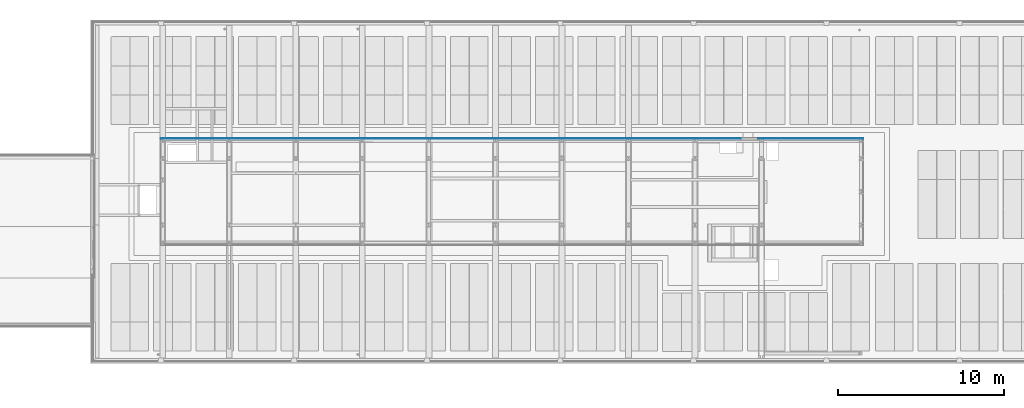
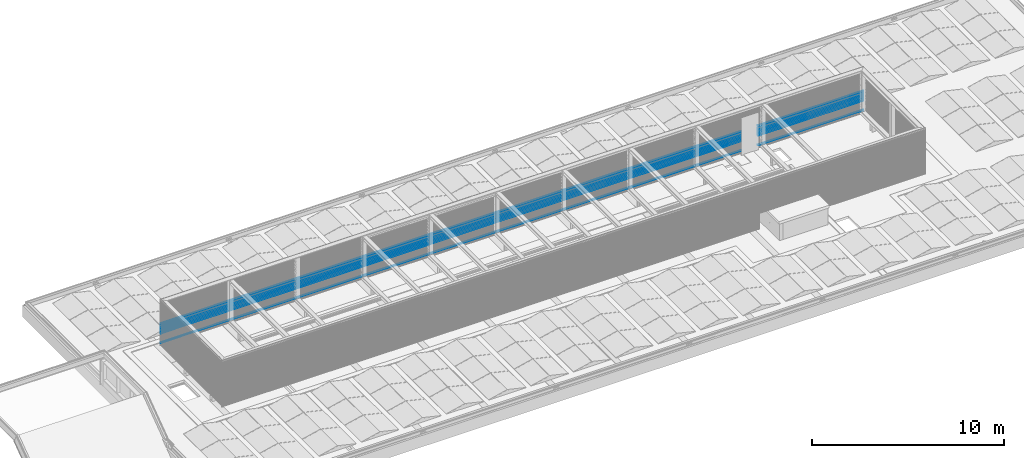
# One storey, part 46 of 63: 9 building element parts, 1 opening, 1 element without a shape of its own.
"""IFC2X3 building model written with IfcOpenShell, lengths in millimetres."""

import ifcopenshell
import ifcopenshell.guid

model = None  # the IFC model being written
_history = None  # IfcOwnerHistory: only IFC2X3 demands one
_inside = {}  # id of a spatial element -> (the spatial element, [elements in it])
_under = {}  # id of a project, library or spatial element -> (it, [spatial elements below it])
_declared = {}  # id of a project -> (the project, [libraries it declares])
_typed = {}  # id of a type object -> (the type object, [elements of that type])
_made_of = {}  # id of a material, layer set ... -> (it, [elements and type objects made of it])


def new_model(schema):
    """Start an empty IFC model of exactly this schema.

    Asked for "IFC4X3", IfcOpenShell would pick the latest addendum, in which some entities
    have other attributes; the version numbers below select the first issue.
    IFC2X3 requires an IfcOwnerHistory on every rooted entity: one is made here for all.
    """
    global model, _history
    if schema == "IFC4X3":
        model = ifcopenshell.file(schema_version=(4, 3, 0, 0))
    else:
        model = ifcopenshell.file(schema=schema)
    _inside.clear()
    _under.clear()
    _declared.clear()
    _typed.clear()
    _made_of.clear()
    _history = None
    if model.schema == "IFC2X3":
        org = make("IfcOrganization", Name="unknown")
        user = make(
            "IfcPersonAndOrganization",
            ThePerson=make("IfcPerson", FamilyName="unknown"),
            TheOrganization=org,
        )
        app = make(
            "IfcApplication",
            ApplicationDeveloper=org,
            Version="unknown",
            ApplicationFullName="unknown",
            ApplicationIdentifier="unknown",
        )
        _history = make(
            "IfcOwnerHistory",
            OwningUser=user,
            OwningApplication=app,
            ChangeAction="ADDED",
            CreationDate=0,
        )
    return model


def make(cls, **values):
    """One entity of the class cls with the attributes given. An attribute that is None is left unset."""
    return model.create_entity(
        cls, **{name: value for name, value in values.items() if value is not None}
    )


def entity(cls, *values):
    """Any entity or typed value of the class cls, its attributes in the order of the schema. None: left unset."""
    e = model.create_entity(cls)
    for i, value in enumerate(values):
        if value is not None:
            e[i] = value
    return e


def rooted(cls, **values):
    """An entity with a GlobalId (a new one), such as an element, a storey or a relation."""
    return make(cls, GlobalId=ifcopenshell.guid.new(), OwnerHistory=_history, **values)


def si_unit(unit_type, name, prefix=None):
    """IfcSIUnit, for example si_unit("LENGTHUNIT", "METRE", prefix="MILLI")."""
    return make("IfcSIUnit", UnitType=unit_type, Prefix=prefix, Name=name)


def converted_unit(unit_type, name, factor, base, dimensions=None, offset=None):
    """IfcConversionBasedUnit, such as the inch: factor (a typed value) times the base unit."""
    return make(
        "IfcConversionBasedUnit"
        if offset is None
        else "IfcConversionBasedUnitWithOffset",
        ConversionOffset=offset,
        Dimensions=None
        if dimensions is None
        else entity("IfcDimensionalExponents", *dimensions),
        UnitType=unit_type,
        Name=name,
        ConversionFactor=make(
            "IfcMeasureWithUnit", ValueComponent=factor, UnitComponent=base
        ),
    )


def derived_unit(unit_type, elements):
    """IfcDerivedUnit: a product of units, each with its exponent."""
    return make(
        "IfcDerivedUnit",
        Elements=[
            make("IfcDerivedUnitElement", Unit=unit, Exponent=power)
            for unit, power in elements
        ],
        UnitType=unit_type,
    )


def money_unit(currency):
    """IfcMonetaryUnit."""
    return make("IfcMonetaryUnit", Currency=currency)


def assignment(units):
    """IfcUnitAssignment: the units of a project."""
    return None if units is None else make("IfcUnitAssignment", Units=units)


def point(xyz):
    """IfcCartesianPoint."""
    return None if xyz is None else make("IfcCartesianPoint", Coordinates=xyz)


def direction(xyz):
    """IfcDirection."""
    return None if xyz is None else make("IfcDirection", DirectionRatios=xyz)


def frame(location, z_axis=None, x_axis=None):
    """IfcAxis2Placement3D, a coordinate frame: its origin and axes. An axis left out is left unset."""
    return make(
        "IfcAxis2Placement3D",
        Location=point(location),
        Axis=direction(z_axis),
        RefDirection=direction(x_axis),
    )


def origin_with_axes():
    """The frame at (0, 0, 0) with the z axis (0, 0, 1) and the x axis (1, 0, 0) written out."""
    return frame((0.0, 0.0, 0.0), z_axis=(0.0, 0.0, 1.0), x_axis=(1.0, 0.0, 0.0))


def place(relative_to, where):
    """IfcLocalPlacement: puts the frame where relative to a parent placement (None: the world)."""
    return make(
        "IfcLocalPlacement", PlacementRelTo=relative_to, RelativePlacement=where
    )


def context(
    kind, dimensions, precision=None, world=None, true_north=None, identifier=None
):
    """IfcGeometricRepresentationContext, for example the 3D "Model" context."""
    return make(
        "IfcGeometricRepresentationContext",
        ContextIdentifier=identifier,
        ContextType=kind,
        CoordinateSpaceDimension=dimensions,
        Precision=precision,
        WorldCoordinateSystem=world,
        TrueNorth=true_north,
    )


def subcontext(parent, identifier, kind, view, scale=None):
    """IfcGeometricRepresentationSubContext, for example "Body" below "Model"."""
    return make(
        "IfcGeometricRepresentationSubContext",
        ContextIdentifier=identifier,
        ContextType=kind,
        ParentContext=parent,
        TargetScale=scale,
        TargetView=view,
    )


def project(units=None, contexts=None):
    """IfcProject with its units and contexts."""
    return rooted(
        "IfcProject",
        Name="project",
        RepresentationContexts=contexts,
        UnitsInContext=assignment(units),
    )


def spatial(cls, under=None, at=None, **own):
    """A site, building, storey or space (cls), placed at a placement, below another one or the project."""
    s = rooted(cls, ObjectPlacement=at, **own)
    if under is not None:
        _under.setdefault(under.id(), (under, []))[1].append(s)
    return s


def faces_of(points, faces, orient=None, outer=None):
    """IfcFace entities. A face is a list of loops; a loop is a list of indices into points, from 0.

    orient and outer hold one flag for each loop. By default every Orientation is true, the
    first loop of a face is its IfcFaceOuterBound and the others are IfcFaceBound.
    """
    made = []
    for i, loops in enumerate(faces):
        bounds = []
        for j, loop in enumerate(loops):
            is_outer = j == 0 if outer is None else outer[i][j]
            bounds.append(
                make(
                    "IfcFaceOuterBound" if is_outer else "IfcFaceBound",
                    Bound=make("IfcPolyLoop", Polygon=[points[k] for k in loop]),
                    Orientation=True if orient is None else orient[i][j],
                )
            )
        made.append(make("IfcFace", Bounds=bounds))
    return made


def faceted_brep(points, faces, orient=None, outer=None, voids=None):
    """IfcFacetedBrep: a solid bounded by flat faces; with voids (closed shells), ...WithVoids."""
    shared = [point(p) for p in points]
    hull = make("IfcClosedShell", CfsFaces=faces_of(shared, faces, orient, outer))
    if voids is None:
        return make("IfcFacetedBrep", Outer=hull)
    return make(
        "IfcFacetedBrepWithVoids",
        Outer=hull,
        Voids=[
            make(cls, CfsFaces=faces_of(shared, fs, o, b)) for cls, fs, o, b in voids
        ],
    )


def shape(context_of_items, identifier, shape_type, items):
    """IfcShapeRepresentation: the items that make up one representation, for example the "Body"."""
    return make(
        "IfcShapeRepresentation",
        ContextOfItems=context_of_items,
        RepresentationIdentifier=identifier,
        RepresentationType=shape_type,
        Items=items,
    )


def material(Name=None, Category=None):
    """IfcMaterial."""
    return make("IfcMaterial", Name=Name, Category=Category)


def made_of(thing, what):
    """Note that an element or type object is made of a material, layer set ...; save() writes the relation."""
    if what is not None:
        _made_of.setdefault(what.id(), (what, []))[1].append(thing)
    return thing


def type_object(cls, material=None, **own):
    """A type object (cls), such as IfcWallType, which elements share."""
    return made_of(rooted(cls, **own), material)


def element(
    cls,
    number,
    at=None,
    inside=None,
    cuts=None,
    type_object=None,
    material=None,
    context=None,
    identifier="Body",
    shape_type=None,
    held_by="IfcProductDefinitionShape",
    body=None,
    shapes=None,
    **own,
):
    """One element of the class cls, such as IfcWall. Its Tag is "e" and its number.

    at: its placement. inside: the storey or other place that contains it. cuts: it is an
    opening in that element (IfcRelVoidsElement). A single representation is given by context,
    identifier, shape_type and body (its items); several are given by shapes. held_by: the class
    of the entity that holds the representations. save() writes the other relations.
    """
    e = rooted(cls, Tag="e%d" % number, ObjectPlacement=at, **own)
    if body is not None:
        shapes = [shape(context, identifier, shape_type, body)]
    if shapes is not None:
        e.Representation = make(held_by, Representations=shapes)
    if inside is not None:
        _inside.setdefault(inside.id(), (inside, []))[1].append(e)
    if cuts is not None:
        rooted(
            "IfcRelVoidsElement", RelatingBuildingElement=cuts, RelatedOpeningElement=e
        )
    if type_object is not None:
        _typed.setdefault(type_object.id(), (type_object, []))[1].append(e)
    return made_of(e, material)


def aggregate(whole, parts):
    """IfcRelAggregates: a whole, such as a stair, and the parts it consists of."""
    return rooted("IfcRelAggregates", RelatingObject=whole, RelatedObjects=parts)


def save(model, path):
    """Write the relations noted so far, then the file.

    IfcRelAggregates (storeys below a building ...), IfcRelContainedInSpatialStructure (elements
    in a storey), IfcRelDefinesByType, IfcRelAssociatesMaterial and IfcRelDeclares: one each for
    every whole, place, type object, material and project.
    """
    for whole, parts in _under.values():
        aggregate(whole, parts)
    for where, things in _inside.values():
        rooted(
            "IfcRelContainedInSpatialStructure",
            RelatedElements=things,
            RelatingStructure=where,
        )
    for kind, things in _typed.values():
        rooted("IfcRelDefinesByType", RelatedObjects=things, RelatingType=kind)
    for what, things in _made_of.values():
        rooted("IfcRelAssociatesMaterial", RelatedObjects=things, RelatingMaterial=what)
    for by, libraries in _declared.values():
        rooted("IfcRelDeclares", RelatingContext=by, RelatedDefinitions=libraries)
    model.write(path)


model = new_model("IFC2X3")

# Units and contexts
model_context = context("Model", 3, precision=0.01, world=origin_with_axes(), true_north=direction((0.0, 1.0)))
body_context = subcontext(model_context, "Body", "Model", "MODEL_VIEW")
ifc_project = project(units=[si_unit("LENGTHUNIT", "METRE", prefix="MILLI"), si_unit("AREAUNIT", "SQUARE_METRE"), si_unit("VOLUMEUNIT", "CUBIC_METRE"), converted_unit("PLANEANGLEUNIT", "DEGREE", entity("IfcPlaneAngleMeasure", 0.0174532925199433), si_unit("PLANEANGLEUNIT", "RADIAN"), dimensions=[0, 0, 0, 0, 0, 0, 0]), money_unit("EUR"), converted_unit("TIMEUNIT", "Year", entity("IfcTimeMeasure", 31557600.0), si_unit("TIMEUNIT", "SECOND"), dimensions=[0, 0, 1, 0, 0, 0, 0]), si_unit("MASSUNIT", "GRAM", prefix="KILO"), si_unit("THERMODYNAMICTEMPERATUREUNIT", "DEGREE_CELSIUS"), si_unit("LUMINOUSINTENSITYUNIT", "LUMEN"), si_unit("ENERGYUNIT", "JOULE", prefix="MEGA"), derived_unit("THERMALCONDUCTANCEUNIT", [(si_unit("POWERUNIT", "WATT"), 1), (si_unit("LENGTHUNIT", "METRE"), -1), (si_unit("THERMODYNAMICTEMPERATUREUNIT", "KELVIN"), -1)]), derived_unit("SPECIFICHEATCAPACITYUNIT", [(si_unit("ENERGYUNIT", "JOULE"), 1), (si_unit("MASSUNIT", "GRAM", prefix="KILO"), -1), (si_unit("THERMODYNAMICTEMPERATUREUNIT", "KELVIN"), -1)]), derived_unit("MASSDENSITYUNIT", [(si_unit("MASSUNIT", "GRAM", prefix="KILO"), 1), (si_unit("VOLUMEUNIT", "CUBIC_METRE"), -1)])], contexts=[model_context])

# Site, building, storey
site_placement = place(None, origin_with_axes())
site = spatial("IfcSite", under=ifc_project, at=site_placement, Name="<site naam>", CompositionType="ELEMENT")
building_placement = place(site_placement, origin_with_axes())
building = spatial("IfcBuilding", under=site, at=building_placement, Name="<Naam gebouw>", CompositionType="ELEMENT")
storey_placement = place(building_placement, frame((0.0, 0.0, 12770.0), z_axis=(0.0, 0.0, 1.0), x_axis=(1.0, 0.0, 0.0)))
storey = spatial("IfcBuildingStorey", under=building, at=storey_placement, Name="04 4e verdieping", CompositionType="ELEMENT", Elevation=12770.0)

# Wall, opening, building element parts
wall_type = type_object("IfcWallType", Name="Gevelbeplating golf 18 x 2900", PredefinedType="NOTDEFINED")
wall_placement = place(storey_placement, frame((58128.00007858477, 13218.00009009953, 299.9552842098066), z_axis=(0.0, 0.0, 1.0), x_axis=(-1.0, 0.0, 0.0)))
wall = element("IfcWall", 1, at=wall_placement, inside=storey, type_object=wall_type, Name="47_Binnenwand_Gevelbeplating")
opening_placement = place(wall_placement, frame((6856.073474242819, 0.0, -120.0392154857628), z_axis=(0.0, 0.0, 1.0), x_axis=(1.0, 0.0, 0.0)))
element("IfcOpeningElement", 2, at=opening_placement, cuts=wall, Name="47_BU-F-02_305", context=body_context, shape_type="Brep", body=[
    faceted_brep([(517.000000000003, 19.00000000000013, 2367.000000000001), (517.000000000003, 19.00000000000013, 0.0), (-517.000000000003, 19.00000000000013, 0.0), (-517.000000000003, 19.00000000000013, 2367.000000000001), (517.000000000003, -1.000078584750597, 2367.000000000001), (517.000000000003, -1.000078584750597, 0.0), (-517.000000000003, -1.000078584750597, 0.0), (-517.000000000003, -1.000078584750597, 2367.000000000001)], [[[0, 1, 2, 3]], [[4, 5, 1, 0]], [[5, 6, 2, 1]], [[6, 7, 3, 2]], [[7, 4, 0, 3]], [[6, 5, 4, 7]]]),
])
ifc_material = material(Name="gevelafwerking type 3 - Aluminium RAL1036")
building_element_part_1_placement = place(wall_placement, origin_with_axes())
building_element_part_1 = element("IfcBuildingElementPart", 3, at=building_element_part_1_placement, material=ifc_material, Name="gevelafwerking type 3 - Aluminium RAL1036", context=body_context, shape_type="Brep", body=[
    faceted_brep([(18238.00007858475, 15.62923906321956, 846.6844886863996), (18238.00007858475, 10.1433027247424, 853.9624792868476), (18018.00007858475, 10.1433027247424, 853.9624792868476), (18018.00007858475, 15.62923906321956, 846.6844886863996), (15.62923906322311, 15.62923906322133, 846.6844886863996), (9.041559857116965, 9.041559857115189, 855.4241211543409), (42247.79065528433, 9.041559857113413, 855.4241211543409), (42247.44495090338, 9.398106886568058, 854.9511032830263), (42241.45595662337, 15.62923906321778, 846.6844886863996), (18238.00007858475, 17.999976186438, 835.999996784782), (18238.00007858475, 16.99997380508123, 835.999996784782), (18238.00007858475, 14.7751732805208, 846.3656793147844), (18238.00007858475, 10.1433027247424, 852.7590765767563), (18018.00007858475, 10.1433027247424, 852.7590765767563), (18018.00007858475, 14.7751732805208, 846.3656793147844), (18018.00007858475, 16.99997380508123, 835.9999968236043), (18018.00007858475, 17.999976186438, 835.9999968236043), (17.999976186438, 17.99997618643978, 836.0000000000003), (15.62923906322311, 14.54420307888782, 846.6844886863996), (9.398106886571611, 8.55522879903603, 854.9511032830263), (9.041559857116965, 8.209519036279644, 855.4241211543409), (42253.74282519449, 3.340108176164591, 863.5682026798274), (3.116454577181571, 3.116454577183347, 863.8876744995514), (42253.81195266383, 3.116454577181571, 863.8876744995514), (42253.74282519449, 2.257334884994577, 863.5682026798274), (42247.44495090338, 8.555228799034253, 854.9511032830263), (42241.22498571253, 14.77517328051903, 846.3656793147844), (42241.22498571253, 15.69997835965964, 846.3656793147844), (42239.00018658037, 17.99997618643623, 835.9999925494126), (42239.00018658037, 16.99997380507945, 835.9999925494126), (15.69997835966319, 14.7751732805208, 846.3656793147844), (17.999976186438, 16.999973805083, 836.0000000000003), (3.340108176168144, 2.257334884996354, 863.5682026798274), (3.116454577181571, 2.188203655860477, 863.8876744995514), (42256.00021191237, 0.9999761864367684, 874.00000596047), (0.9999761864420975, 0.9999761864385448, 874.0000000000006), (42256.00021191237, -2.381356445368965e-05, 874.00000596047), (0.9999761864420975, -2.381356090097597e-05, 874.0000000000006)], [[[0, 1, 2, 3, 4, 5, 6, 7, 8]], [[1, 0, 9, 10, 11, 12]], [[2, 1, 12, 13]], [[3, 2, 13, 14, 15, 16]], [[3, 16, 17, 4]], [[4, 18, 19, 20, 5]], [[21, 6, 5, 22, 23]], [[24, 25, 7, 6, 21]], [[25, 26, 27, 8, 7]], [[9, 0, 8, 27, 28]], [[10, 9, 28, 29]], [[11, 10, 29, 26]], [[12, 11, 26, 25, 19, 18, 30, 14, 13]], [[15, 14, 30, 31]], [[16, 15, 31, 17]], [[17, 31, 30, 18, 4]], [[24, 32, 20, 19, 25]], [[5, 20, 32, 33, 22]], [[34, 23, 22, 35]], [[36, 24, 21, 23, 34]], [[27, 26, 29, 28]], [[36, 37, 33, 32, 24]], [[35, 22, 33, 37]], [[36, 34, 35, 37]]]),
])
building_element_part_2_placement = place(wall_placement, origin_with_axes())
building_element_part_2 = element("IfcBuildingElementPart", 4, at=building_element_part_2_placement, material=ifc_material, Name="gevelafwerking type 3 - Aluminium RAL1036", context=body_context, shape_type="Brep", body=[
    faceted_brep([(18238.00007858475, 15.62924144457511, 770.6844886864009), (18238.00007858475, 10.1433027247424, 777.9624824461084), (18018.00007858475, 10.1433027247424, 777.9624824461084), (18018.00007858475, 15.62924144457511, 770.6844886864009), (15.62924144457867, 15.62924144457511, 770.6844886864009), (9.041562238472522, 9.041562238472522, 779.4241211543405), (42247.79064798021, 9.04156223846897, 779.4241211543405), (42247.44495090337, 9.398096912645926, 778.9511196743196), (42241.45594474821, 15.62924144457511, 770.6844886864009), (18238.00007858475, 17.99997856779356, 760.000003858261), (18238.00007858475, 16.99997618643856, 760.000003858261), (18238.00007858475, 14.77517566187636, 770.3656957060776), (18238.00007858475, 10.1433027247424, 776.7590962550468), (18018.00007858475, 10.1433027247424, 776.7590962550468), (18018.00007858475, 14.77517566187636, 770.3656957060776), (18018.00007858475, 16.99997618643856, 760.0000038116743), (18018.00007858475, 17.99997856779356, 760.0000038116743), (17.99997856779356, 17.99997856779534, 759.9999999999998), (15.62924144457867, 14.54421733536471, 770.6844886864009), (9.398096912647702, 8.555231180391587, 778.9511196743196), (9.041562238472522, 8.209533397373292, 779.4241211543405), (42253.74282987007, 3.340099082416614, 787.5682190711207), (3.116456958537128, 3.116456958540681, 787.8876744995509), (42253.811958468, 3.116456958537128, 787.8876744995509), (42253.74282987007, 2.257337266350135, 787.5682190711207), (42247.44495090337, 8.55523118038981, 778.9511196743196), (42241.22498571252, 15.69997710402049, 770.3656957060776), (42241.22498571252, 14.77517566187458, 770.3656957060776), (42239.00018658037, 17.99997856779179, 760.0000089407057), (42239.00018658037, 16.99997618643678, 760.0000089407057), (15.6999771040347, 14.77517566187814, 770.3656957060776), (17.99997856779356, 16.99997618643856, 759.9999999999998), (3.340099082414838, 2.257337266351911, 787.5682190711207), (3.116456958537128, 2.188209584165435, 787.8876744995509), (42256.00021191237, 0.9999785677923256, 797.9999791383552), (0.9999785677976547, 0.9999785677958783, 798.0), (42256.00021191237, -2.143220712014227e-05, 797.9999791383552), (0.9999785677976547, -2.143220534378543e-05, 798.0)], [[[0, 1, 2, 3, 4, 5, 6, 7, 8]], [[1, 0, 9, 10, 11, 12]], [[2, 1, 12, 13]], [[3, 2, 13, 14, 15, 16]], [[3, 16, 17, 4]], [[4, 18, 19, 20, 5]], [[21, 6, 5, 22, 23]], [[7, 6, 21, 24, 25]], [[26, 8, 7, 25, 27]], [[9, 0, 8, 26, 28]], [[10, 9, 28, 29]], [[11, 10, 29, 27]], [[12, 11, 27, 25, 19, 18, 30, 14, 13]], [[15, 14, 30, 31]], [[16, 15, 31, 17]], [[17, 31, 30, 18, 4]], [[24, 32, 20, 19, 25]], [[5, 20, 32, 33, 22]], [[34, 23, 22, 35]], [[21, 23, 34, 36, 24]], [[29, 28, 26, 27]], [[36, 37, 33, 32, 24]], [[35, 22, 33, 37]], [[36, 34, 35, 37]]]),
])
building_element_part_3_placement = place(wall_placement, origin_with_axes())
building_element_part_3 = element("IfcBuildingElementPart", 5, at=building_element_part_3_placement, material=ifc_material, Name="gevelafwerking type 3 - Aluminium RAL1036", context=body_context, shape_type="Brep", body=[
    faceted_brep([(18132.75007858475, 15.62925811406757, 162.6844886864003), (18132.75007858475, 10.14329121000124, 169.962519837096), (18123.25007858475, 10.14329121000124, 169.962519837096), (18123.25007858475, 15.62925811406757, 162.6844886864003), (15.62925811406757, 15.62925811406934, 162.6844886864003), (9.041578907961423, 9.041578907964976, 171.4241211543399), (42247.79060604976, 9.041578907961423, 171.4241211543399), (42247.44490768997, 9.398112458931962, 170.9511211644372), (42241.45594206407, 15.62925811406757, 162.6844886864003), (18132.75007858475, 17.99999523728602, 152.0000044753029), (18132.75007858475, 16.99999285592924, 152.0000044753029), (18132.75007858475, 14.77519233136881, 162.3656971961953), (18132.75007858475, 10.14329121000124, 168.7591344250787), (18123.25007858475, 10.14329121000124, 168.7591344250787), (18123.25007858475, 14.77519233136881, 162.3656971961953), (18123.25007858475, 16.99999285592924, 152.0000044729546), (18123.25007858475, 17.99999523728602, 152.0000044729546), (17.99999523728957, 17.99999523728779, 151.9999999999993), (15.62925811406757, 14.54423508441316, 162.6844886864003), (9.398112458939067, 8.555247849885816, 170.9511211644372), (9.041578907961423, 8.20955115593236, 171.4241211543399), (3.116473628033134, 3.116473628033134, 179.8876744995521), (42253.81196121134, 3.116473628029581, 179.8876744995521), (42253.74282987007, 3.340114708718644, 179.5682205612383), (42247.44490768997, 8.555247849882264, 170.9511211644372), (42253.74282987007, 2.257353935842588, 179.5682205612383), (42241.22498571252, 14.77519233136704, 162.3656971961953), (42241.22498571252, 15.69999344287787, 162.3656971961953), (42239.00018658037, 17.99999523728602, 152.0000104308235), (42239.00018658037, 16.99999285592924, 152.0000104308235), (15.69999344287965, 14.77519233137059, 162.3656971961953), (17.99999523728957, 16.99999285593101, 151.9999999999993), (3.340114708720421, 2.257353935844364, 179.5682205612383), (3.116473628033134, 2.188226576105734, 179.8876744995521), (0.999995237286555, 0.9999952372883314, 189.9999999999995), (42256.00016402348, 0.9999952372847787, 189.9999806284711), (42256.00016402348, -4.76271466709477e-06, 189.9999806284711), (0.999995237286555, -4.76271289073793e-06, 189.9999999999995)], [[[0, 1, 2, 3, 4, 5, 6, 7, 8]], [[1, 0, 9, 10, 11, 12]], [[2, 1, 12, 13]], [[3, 2, 13, 14, 15, 16]], [[3, 16, 17, 4]], [[18, 19, 20, 5, 4]], [[6, 5, 21, 22, 23]], [[24, 7, 6, 23, 25]], [[26, 27, 8, 7, 24]], [[9, 0, 8, 27, 28]], [[10, 9, 28, 29]], [[11, 10, 29, 26]], [[12, 11, 26, 24, 19, 18, 30, 14, 13]], [[15, 14, 30, 31]], [[16, 15, 31, 17]], [[31, 30, 18, 4, 17]], [[32, 20, 19, 24, 25]], [[20, 32, 33, 21, 5]], [[22, 21, 34, 35]], [[25, 23, 22, 35, 36]], [[26, 29, 28, 27]], [[37, 33, 32, 25, 36]], [[21, 33, 37, 34]], [[35, 34, 37, 36]]]),
])
building_element_part_4_placement = place(wall_placement, origin_with_axes())
building_element_part_4 = element("IfcBuildingElementPart", 6, at=building_element_part_4_placement, material=ifc_material, Name="gevelafwerking type 3 - Aluminium RAL1036", context=body_context, shape_type="Brep", body=[
    faceted_brep([(18238.00007858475, 15.629236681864, 922.6844886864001), (18238.00007858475, 10.1433027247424, 929.9624761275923), (18018.00007858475, 10.1433027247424, 929.9624761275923), (18018.00007858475, 15.629236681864, 922.6844886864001), (15.62923668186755, 15.629236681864, 922.6844886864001), (9.041557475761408, 9.041557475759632, 931.4241211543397), (42247.79067020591, 9.041557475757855, 931.4241211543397), (42247.44495090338, 9.398116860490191, 930.9510868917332), (42241.45593835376, 15.62923668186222, 922.6844886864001), (18238.00007858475, 17.99997380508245, 912.0000083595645), (18238.00007858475, 16.99997142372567, 912.0000083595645), (18238.00007858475, 14.77517089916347, 922.3657061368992), (18238.00007858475, 10.1433027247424, 928.759056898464), (18018.00007858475, 10.1433027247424, 928.759056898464), (18018.00007858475, 14.77517089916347, 922.3657061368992), (18018.00007858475, 16.99997142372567, 912.0000082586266), (18018.00007858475, 17.99997380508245, 912.0000082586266), (17.99997380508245, 17.99997380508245, 911.9999999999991), (15.62923668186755, 14.54422012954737, 922.6844886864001), (9.398116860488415, 8.555226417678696, 930.9510868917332), (9.041557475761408, 8.209504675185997, 931.4241211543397), (42253.74282987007, 3.340087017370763, 939.5682295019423), (3.116452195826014, 3.11645219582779, 939.8876744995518), (42253.81195621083, 3.116452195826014, 939.8876744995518), (42253.74282987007, 2.257332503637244, 939.5682295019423), (42247.44495090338, 8.55522641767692, 930.9510868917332), (42241.22498571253, 15.69997002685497, 922.3657061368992), (42241.22498571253, 14.77517089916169, 922.3657061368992), (42239.00018658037, 17.99997380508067, 912.0000193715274), (42239.00018658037, 16.99997142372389, 912.0000193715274), (15.69997002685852, 14.77517089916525, 922.3657061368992), (17.99997380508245, 16.99997142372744, 911.9999999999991), (3.340087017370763, 2.257332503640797, 939.5682295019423), (3.116452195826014, 2.188207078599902, 939.8876744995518), (42256.00021191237, 0.9999738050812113, 949.9999895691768), (0.9999738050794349, 0.9999738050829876, 949.9999999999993), (42256.00021191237, -2.61949200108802e-05, 949.9999895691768), (0.9999738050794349, -2.619491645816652e-05, 949.9999999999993)], [[[0, 1, 2, 3, 4, 5, 6, 7, 8]], [[1, 0, 9, 10, 11, 12]], [[2, 1, 12, 13]], [[3, 2, 13, 14, 15, 16]], [[3, 16, 17, 4]], [[4, 18, 19, 20, 5]], [[21, 6, 5, 22, 23]], [[7, 6, 21, 24, 25]], [[26, 8, 7, 25, 27]], [[9, 0, 8, 26, 28]], [[10, 9, 28, 29]], [[11, 10, 29, 27]], [[12, 11, 27, 25, 19, 18, 30, 14, 13]], [[15, 14, 30, 31]], [[16, 15, 31, 17]], [[17, 31, 30, 18, 4]], [[24, 32, 20, 19, 25]], [[5, 20, 32, 33, 22]], [[34, 23, 22, 35]], [[21, 23, 34, 36, 24]], [[29, 28, 26, 27]], [[36, 37, 33, 32, 24]], [[35, 22, 33, 37]], [[36, 34, 35, 37]]]),
])
building_element_part_5_placement = place(wall_placement, origin_with_axes())
building_element_part_5 = element("IfcBuildingElementPart", 7, at=building_element_part_5_placement, material=ifc_material, Name="gevelafwerking type 3 - Aluminium RAL1036", context=body_context, shape_type="Brep", body=[
    faceted_brep([(18238.00007858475, 15.62923191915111, 1150.6844886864), (18238.00007858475, 10.1433027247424, 1157.962469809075), (18018.00007858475, 10.1433027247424, 1157.962469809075), (18018.00007858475, 15.62923191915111, 1150.6844886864), (15.62923191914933, 15.62923191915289, 1150.6844886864), (9.041552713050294, 9.041552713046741, 1159.424121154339), (42247.79064471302, 9.041552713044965, 1159.424121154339), (42247.44495090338, 9.398084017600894, 1158.951124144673), (42241.45598311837, 15.62923191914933, 1150.6844886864), (18238.00007858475, 17.99996904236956, 1140.000005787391), (18238.00007858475, 16.99996666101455, 1140.000005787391), (18238.00007858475, 14.77516613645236, 1150.36570017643), (18238.00007858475, 10.1433027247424, 1156.759087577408), (18018.00007858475, 10.1433027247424, 1156.759087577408), (18018.00007858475, 14.77516613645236, 1150.36570017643), (18018.00007858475, 16.99996666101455, 1140.000005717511), (18018.00007858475, 17.99996904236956, 1140.000005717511), (17.99996904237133, 17.99996904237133, 1139.999999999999), (15.62923191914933, 14.54421104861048, 1150.6844886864), (9.398084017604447, 8.555221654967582, 1158.951124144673), (9.041552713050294, 8.209527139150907, 1159.424121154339), (42253.74282987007, 3.34008642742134, 1167.568223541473), (3.116447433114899, 3.116447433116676, 1167.887674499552), (42253.81195750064, 3.116447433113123, 1167.887674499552), (42253.74282987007, 2.257327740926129, 1167.568223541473), (42247.44495090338, 8.555221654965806, 1158.951124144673), (42241.22502892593, 15.69996658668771, 1150.36570017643), (42241.22502892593, 14.77516613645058, 1150.36570017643), (42239.00022979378, 17.99996904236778, 1140.000013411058), (42239.00022979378, 16.99996666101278, 1140.000013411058), (15.69996658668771, 14.77516613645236, 1150.36570017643), (17.99996904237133, 16.99996666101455, 1139.999999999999), (3.34008642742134, 2.257327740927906, 1167.568223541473), (3.116447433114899, 2.188201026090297, 1167.887674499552), (42256.00021191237, 0.9999690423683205, 1177.999983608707), (0.9999690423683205, 0.9999690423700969, 1177.999999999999), (42256.00021191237, -3.095763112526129e-05, 1177.999983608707), (0.9999690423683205, -3.095762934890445e-05, 1177.999999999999)], [[[0, 1, 2, 3, 4, 5, 6, 7, 8]], [[1, 0, 9, 10, 11, 12]], [[2, 1, 12, 13]], [[3, 2, 13, 14, 15, 16]], [[3, 16, 17, 4]], [[4, 18, 19, 20, 5]], [[21, 6, 5, 22, 23]], [[7, 6, 21, 24, 25]], [[26, 8, 7, 25, 27]], [[9, 0, 8, 26, 28]], [[10, 9, 28, 29]], [[11, 10, 29, 27]], [[12, 11, 27, 25, 19, 18, 30, 14, 13]], [[15, 14, 30, 31]], [[16, 15, 31, 17]], [[17, 31, 30, 18, 4]], [[24, 32, 20, 19, 25]], [[5, 20, 32, 33, 22]], [[34, 23, 22, 35]], [[21, 23, 34, 36, 24]], [[29, 28, 26, 27]], [[36, 37, 33, 32, 24]], [[35, 22, 33, 37]], [[36, 34, 35, 37]]]),
])
building_element_part_6_placement = place(wall_placement, origin_with_axes())
building_element_part_6 = element("IfcBuildingElementPart", 8, at=building_element_part_6_placement, material=ifc_material, Name="gevelafwerking type 3 - Aluminium RAL1036", context=body_context, shape_type="Brep", body=[
    faceted_brep([(18238.00007858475, 15.62923191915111, 1074.684488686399), (18238.00007858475, 10.1433027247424, 1081.962469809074), (18018.00007858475, 10.1433027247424, 1081.962469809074), (18018.00007858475, 15.62923191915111, 1074.684488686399), (15.62923191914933, 15.62923191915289, 1074.684488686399), (9.041552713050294, 9.041552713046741, 1083.424121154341), (42247.7906596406, 9.041552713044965, 1083.424121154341), (42247.44495090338, 9.398104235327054, 1082.951097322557), (42241.45600255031, 15.62923191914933, 1074.684488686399), (18238.00007858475, 17.99996904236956, 1063.999994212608), (18238.00007858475, 16.99996666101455, 1063.999994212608), (18238.00007858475, 14.77516613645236, 1074.365673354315), (18238.00007858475, 10.1433027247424, 1080.759060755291), (18018.00007858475, 10.1433027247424, 1080.759060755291), (18018.00007858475, 14.77516613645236, 1074.365673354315), (18018.00007858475, 16.99996666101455, 1063.999994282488), (18018.00007858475, 17.99996904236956, 1063.999994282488), (17.99996904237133, 17.99996904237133, 1064.0), (15.62923191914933, 14.54419161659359, 1074.684488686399), (9.398104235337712, 8.555221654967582, 1082.951097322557), (9.041552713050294, 8.209507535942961, 1083.424121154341), (42253.74282519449, 3.340105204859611, 1091.568196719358), (3.116447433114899, 3.116447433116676, 1091.887674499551), (42253.81195395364, 3.116447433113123, 1091.887674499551), (42253.74282519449, 2.257327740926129, 1091.568196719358), (42247.44495090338, 8.555221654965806, 1082.951097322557), (42241.22502892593, 14.77516613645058, 1074.365673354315), (42241.22502892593, 15.69997253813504, 1074.365673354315), (42239.00022979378, 17.99996904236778, 1063.999986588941), (42239.00022979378, 16.99996666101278, 1063.999986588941), (15.69997253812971, 14.77516613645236, 1074.365673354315), (17.99996904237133, 16.99996666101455, 1064.0), (3.340105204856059, 2.257327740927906, 1091.568196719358), (3.116447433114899, 2.188195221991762, 1091.887674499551), (42256.00021191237, 0.9999690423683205, 1102.0), (0.9999690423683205, 0.9999690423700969, 1102.0), (42256.00021191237, -3.095763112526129e-05, 1102.0), (0.9999690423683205, -3.095762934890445e-05, 1102.0)], [[[0, 1, 2, 3, 4, 5, 6, 7, 8]], [[1, 0, 9, 10, 11, 12]], [[2, 1, 12, 13]], [[3, 2, 13, 14, 15, 16]], [[3, 16, 17, 4]], [[4, 18, 19, 20, 5]], [[21, 6, 5, 22, 23]], [[24, 25, 7, 6, 21]], [[25, 26, 27, 8, 7]], [[9, 0, 8, 27, 28]], [[10, 9, 28, 29]], [[11, 10, 29, 26]], [[12, 11, 26, 25, 19, 18, 30, 14, 13]], [[15, 14, 30, 31]], [[16, 15, 31, 17]], [[17, 31, 30, 18, 4]], [[24, 32, 20, 19, 25]], [[5, 20, 32, 33, 22]], [[34, 23, 22, 35]], [[36, 24, 21, 23, 34]], [[27, 26, 29, 28]], [[36, 37, 33, 32, 24]], [[35, 22, 33, 37]], [[36, 34, 35, 37]]]),
])
building_element_part_7_placement = place(wall_placement, origin_with_axes())
building_element_part_7 = element("IfcBuildingElementPart", 9, at=building_element_part_7_placement, material=ifc_material, Name="gevelafwerking type 3 - Aluminium RAL1036", context=body_context, shape_type="Brep", body=[
    faceted_brep([(18238.00007858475, 15.62923430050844, 998.6844886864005), (18238.00007858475, 10.1433027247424, 1005.962472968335), (18018.00007858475, 10.1433027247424, 1005.962472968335), (18018.00007858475, 15.62923430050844, 998.6844886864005), (15.629234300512, 15.62923430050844, 998.6844886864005), (9.041555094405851, 9.041555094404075, 1007.42412115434), (42247.79064766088, 9.041555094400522, 1007.42412115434), (42247.44495090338, 9.398094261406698, 1006.95111371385), (42241.45599067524, 15.62923430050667, 998.6844886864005), (18238.00007858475, 17.99997142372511, 988.0000012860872), (18238.00007858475, 16.99996904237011, 988.0000012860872), (18238.00007858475, 14.77516851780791, 998.3656897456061), (18238.00007858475, 10.1433027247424, 1004.759080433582), (18018.00007858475, 10.1433027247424, 1004.759080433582), (18018.00007858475, 14.77516851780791, 998.3656897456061), (18018.00007858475, 16.99996904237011, 988.0000012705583), (18018.00007858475, 17.99997142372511, 988.0000012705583), (17.99997142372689, 17.99997142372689, 987.9999999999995), (15.629234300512, 14.54420587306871, 998.6844886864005), (9.398094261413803, 8.555224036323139, 1006.95111371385), (9.041555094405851, 8.209521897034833, 1007.42412115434), (42253.74282519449, 3.340096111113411, 1015.568213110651), (3.116449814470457, 3.116449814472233, 1015.887674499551), (42253.81194573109, 3.11644981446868, 1015.887674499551), (42253.74282519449, 2.257330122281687, 1015.568213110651), (42247.44495090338, 8.555224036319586, 1006.95111371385), (42241.22502892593, 14.77516851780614, 998.3656897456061), (42241.22502892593, 15.69997128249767, 998.3656897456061), (42239.00018658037, 17.99997142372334, 988.0000029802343), (42239.00018658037, 16.99996904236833, 988.0000029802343), (15.69997128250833, 14.77516851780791, 998.3656897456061), (17.99997142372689, 16.99996904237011, 987.9999999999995), (3.340096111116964, 2.257330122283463, 1015.568213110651), (3.116449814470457, 2.18820115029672, 1015.887674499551), (42256.0002072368, 0.9999714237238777, 1026.000016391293), (0.9999714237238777, 0.9999714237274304, 1026.0), (42256.0002072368, -2.857627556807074e-05, 1026.000016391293), (0.9999714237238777, -2.85762737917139e-05, 1026.0)], [[[0, 1, 2, 3, 4, 5, 6, 7, 8]], [[1, 0, 9, 10, 11, 12]], [[2, 1, 12, 13]], [[3, 2, 13, 14, 15, 16]], [[3, 16, 17, 4]], [[4, 18, 19, 20, 5]], [[21, 6, 5, 22, 23]], [[24, 25, 7, 6, 21]], [[25, 26, 27, 8, 7]], [[9, 0, 8, 27, 28]], [[10, 9, 28, 29]], [[11, 10, 29, 26]], [[12, 11, 26, 25, 19, 18, 30, 14, 13]], [[15, 14, 30, 31]], [[16, 15, 31, 17]], [[17, 31, 30, 18, 4]], [[24, 32, 20, 19, 25]], [[5, 20, 32, 33, 22]], [[34, 23, 22, 35]], [[36, 24, 21, 23, 34]], [[27, 26, 29, 28]], [[36, 37, 33, 32, 24]], [[35, 22, 33, 37]], [[36, 34, 35, 37]]]),
])
building_element_part_8_placement = place(wall_placement, origin_with_axes())
building_element_part_8 = element("IfcBuildingElementPart", 10, at=building_element_part_8_placement, material=ifc_material, Name="gevelafwerking type 3 - Aluminium RAL1036", context=body_context, shape_type="Brep", body=[
    faceted_brep([(18238.00007858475, 15.62922477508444, 1378.6844886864), (18238.00007858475, 10.1433027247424, 1385.962460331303), (18018.00007858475, 10.1433027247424, 1385.962460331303), (18018.00007858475, 15.62922477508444, 1378.6844886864), (15.62922477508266, 15.62922477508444, 1378.6844886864), (9.041545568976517, 9.04154556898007, 1387.424121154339), (42247.7906514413, 9.041545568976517, 1387.424121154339), (42247.44495090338, 9.39808136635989, 1386.951118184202), (42241.45598743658, 15.62922477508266, 1378.6844886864), (18238.00007858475, 17.99996189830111, 1368.000003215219), (18238.00007858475, 16.99995951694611, 1368.000003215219), (18238.00007858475, 14.77515899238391, 1378.36569421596), (18238.00007858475, 10.1433027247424, 1384.759071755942), (18018.00007858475, 10.1433027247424, 1384.759071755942), (18018.00007858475, 14.77515899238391, 1378.36569421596), (18018.00007858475, 16.99995951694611, 1368.000003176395), (18018.00007858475, 17.99996189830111, 1368.000003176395), (17.99996189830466, 17.99996189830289, 1368.0), (15.62922477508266, 14.54419958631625, 1378.6844886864), (9.398081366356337, 8.555214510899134, 1386.951118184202), (9.041545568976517, 8.209515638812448, 1387.424121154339), (42253.74287308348, 3.340083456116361, 1395.568217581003), (3.116440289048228, 3.116440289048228, 1395.887674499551), (42253.81200039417, 3.116440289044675, 1395.887674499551), (42253.74287308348, 2.257320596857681, 1395.568217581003), (42247.44495090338, 8.555214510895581, 1386.951118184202), (42241.22502892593, 15.69996076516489, 1378.36569421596), (42241.22502892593, 14.77515899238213, 1378.36569421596), (42239.00022979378, 17.99996189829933, 1368.000007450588), (42239.00022979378, 16.99995951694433, 1368.000007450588), (15.69996076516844, 14.77515899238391, 1378.36569421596), (17.99996189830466, 16.99995951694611, 1368.0), (3.340083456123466, 2.257320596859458, 1395.568217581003), (3.116440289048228, 2.188192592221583, 1395.887674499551), (42256.00021191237, 0.9999618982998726, 1406.000020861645), (0.9999618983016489, 0.9999618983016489, 1406.000000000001), (42256.00021191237, -3.810169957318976e-05, 1406.000020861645), (0.9999618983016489, -3.810169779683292e-05, 1406.000000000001)], [[[0, 1, 2, 3, 4, 5, 6, 7, 8]], [[1, 0, 9, 10, 11, 12]], [[2, 1, 12, 13]], [[3, 2, 13, 14, 15, 16]], [[3, 16, 17, 4]], [[4, 18, 19, 20, 5]], [[21, 6, 5, 22, 23]], [[7, 6, 21, 24, 25]], [[26, 8, 7, 25, 27]], [[9, 0, 8, 26, 28]], [[10, 9, 28, 29]], [[11, 10, 29, 27]], [[12, 11, 27, 25, 19, 18, 30, 14, 13]], [[15, 14, 30, 31]], [[16, 15, 31, 17]], [[17, 31, 30, 18, 4]], [[24, 32, 20, 19, 25]], [[5, 20, 32, 33, 22]], [[34, 23, 22, 35]], [[21, 23, 34, 36, 24]], [[29, 28, 26, 27]], [[36, 37, 33, 32, 24]], [[35, 22, 33, 37]], [[36, 34, 35, 37]]]),
])
building_element_part_9_placement = place(wall_placement, origin_with_axes())
building_element_part_9 = element("IfcBuildingElementPart", 11, at=building_element_part_9_placement, material=ifc_material, Name="gevelafwerking type 3 - Aluminium RAL1036", context=body_context, shape_type="Brep", body=[
    faceted_brep([(18238.00007858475, 15.62922953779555, 1226.6844886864), (18238.00007858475, 10.1433027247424, 1233.962466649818), (18018.00007858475, 10.1433027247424, 1233.962466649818), (18018.00007858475, 15.62922953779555, 1226.6844886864), (15.62922953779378, 15.62922953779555, 1226.6844886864), (9.041550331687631, 9.041550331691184, 1235.42412115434), (42247.79065201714, 9.041550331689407, 1235.42412115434), (42247.44495090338, 9.398093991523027, 1234.95110775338), (42241.45599499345, 15.62922953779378, 1226.6844886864), (18238.00007858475, 17.999966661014, 1215.999998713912), (18238.00007858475, 16.99996427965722, 1215.999998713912), (18238.00007858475, 14.7751637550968, 1226.365683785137), (18238.00007858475, 10.1433027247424, 1232.759067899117), (18018.00007858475, 10.1433027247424, 1232.759067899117), (18018.00007858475, 14.7751637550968, 1226.365683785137), (18018.00007858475, 16.99996427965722, 1215.999998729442), (18018.00007858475, 17.999966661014, 1215.999998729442), (17.99996666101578, 17.999966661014, 1215.999999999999), (15.62922953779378, 14.54419679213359, 1226.6844886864), (9.39809399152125, 8.555219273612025, 1234.95110775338), (9.041550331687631, 8.209512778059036, 1235.42412115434), (42253.74282519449, 3.340095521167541, 1243.568207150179), (3.116445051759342, 3.116445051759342, 1243.887674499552), (42253.81194702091, 3.116445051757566, 1243.887674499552), (42253.74282519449, 2.257325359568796, 1243.568207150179), (42247.44495090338, 8.555219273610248, 1234.95110775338), (42241.22502892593, 14.77516375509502, 1226.365683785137), (42241.22502892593, 15.69996784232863, 1226.365683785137), (42239.00022979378, 17.99996666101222, 1215.999997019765), (42239.00022979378, 16.99996427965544, 1215.999997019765), (15.69996784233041, 14.7751637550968, 1226.365683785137), (17.99996666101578, 16.999964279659, 1215.999999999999), (3.340095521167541, 2.257325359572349, 1243.568207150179), (3.116445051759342, 2.188195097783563, 1243.887674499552), (42256.0002072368, 0.9999666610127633, 1254.000010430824), (0.9999666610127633, 0.9999666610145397, 1254.0), (42256.0002072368, -3.333898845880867e-05, 1254.000010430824), (0.9999666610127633, -3.333898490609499e-05, 1254.0)], [[[0, 1, 2, 3, 4, 5, 6, 7, 8]], [[1, 0, 9, 10, 11, 12]], [[2, 1, 12, 13]], [[3, 2, 13, 14, 15, 16]], [[3, 16, 17, 4]], [[4, 18, 19, 20, 5]], [[21, 6, 5, 22, 23]], [[24, 25, 7, 6, 21]], [[25, 26, 27, 8, 7]], [[9, 0, 8, 27, 28]], [[10, 9, 28, 29]], [[11, 10, 29, 26]], [[12, 11, 26, 25, 19, 18, 30, 14, 13]], [[15, 14, 30, 31]], [[16, 15, 31, 17]], [[17, 31, 30, 18, 4]], [[24, 32, 20, 19, 25]], [[5, 20, 32, 33, 22]], [[34, 23, 22, 35]], [[36, 24, 21, 23, 34]], [[27, 26, 29, 28]], [[36, 37, 33, 32, 24]], [[35, 22, 33, 37]], [[36, 34, 35, 37]]]),
])
aggregate(wall, [building_element_part_1, building_element_part_2, building_element_part_3, building_element_part_4, building_element_part_5, building_element_part_6, building_element_part_7, building_element_part_8, building_element_part_9])

save(model, "model.ifc")
